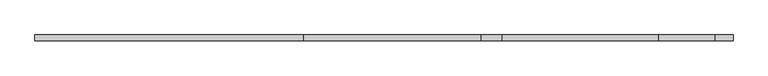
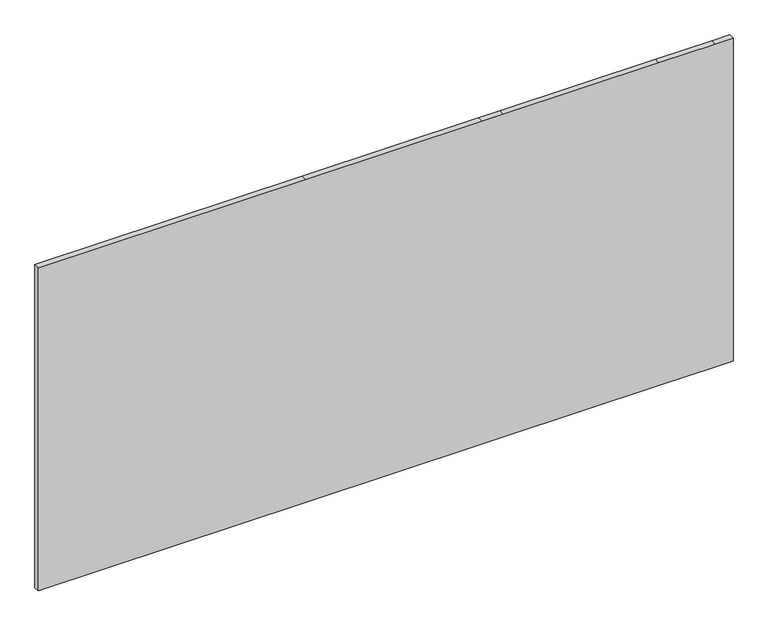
"""IFC4 building model written with IfcOpenShell, lengths in millimetres: plate geometry, Системная панель : С остеклением."""

from ifc_helpers import new_model, si_unit, frame, origin, place, context, project, spatial, polyline, outline, extrude, source, transform, mapped, element, save


def plate_23ef198f(model_context):
    return source(origin(), model_context, "Body", "SweptSolid", [
        extrude(outline(polyline([(0.0, -1475.0), (0.0, -340.0), (0.0, 410.0), (0.0, 500.0), (0.0, 1160.0), (0.0, 1400.0), (0.0, 1475.0), (1450.0, 1475.0), (1450.0, 1400.0), (1450.0, 1160.0), (1450.0, 500.0), (1450.0, 410.0), (1450.0, -340.0), (1450.0, -1475.0), (0.0, -1475.0)])), frame((0.0, -49.5, 0.0), z_axis=(0.0, 1.0, 0.0), x_axis=(0.0, 0.0, 1.0)), (0.0, 0.0, 1.0), 25.0),
    ])


if __name__ == "__main__":
    model = new_model("IFC4")
    model_context = context("Model", 3, world=origin())
    ifc_project = project(units=[si_unit("LENGTHUNIT", "METRE", prefix="MILLI")], contexts=[model_context])
    site = spatial("IfcSite", under=ifc_project)
    building = spatial("IfcBuilding", under=site)
    placement = place(None, origin())
    plate_shape = plate_23ef198f(model_context)
    element("IfcPlate", 1, ObjectType="Системная панель : С остеклением", at=placement, inside=building, context=model_context, shape_type="MappedRepresentation", body=[
        mapped(plate_shape, transform((0.0, 0.0, 0.0), x_axis=(1.0, 0.0, 0.0), y_axis=(0.0, 1.0, 0.0), z_axis=(0.0, 0.0, 1.0))),
    ])
    save(model, "model.ifc")
